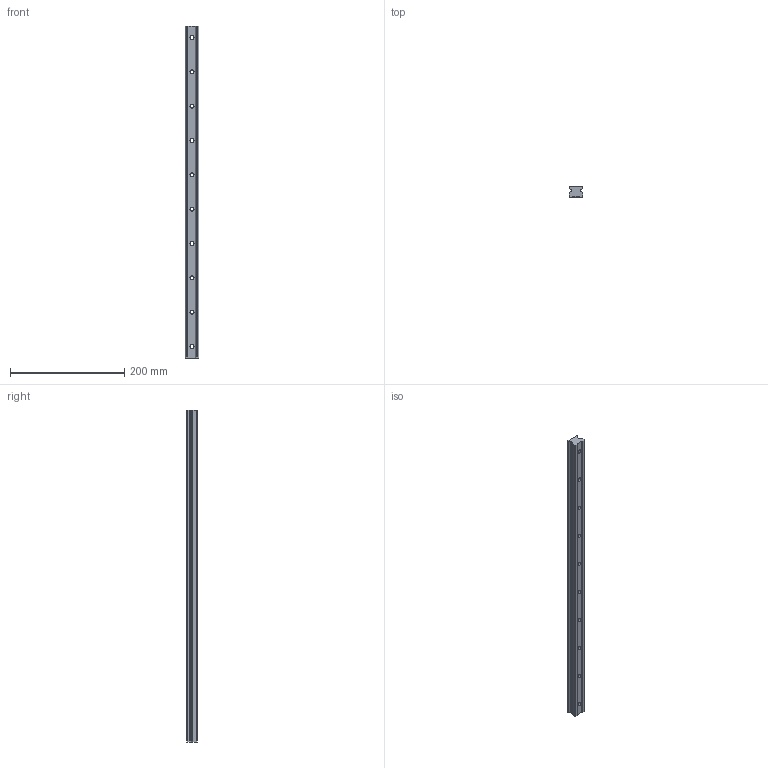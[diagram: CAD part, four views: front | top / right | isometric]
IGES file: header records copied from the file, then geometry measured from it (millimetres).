
Start section: SolidWorks IGES file using analytic representation for surfaces
Global section: file name: C:\Users\IanO\Desktop\L1016_v2\L1016.BL25_v2\L1016.BL25_v2_20160611_IGES\L1016.BL25-0580.igs; native system: SolidWorks 2017; preprocessor: SolidWorks 2017; author: IanO; date: 190612.130515; units: millimetre
Bounding box: 23 x 19.2 x 580 mm (x, y, z)
Surface area: 55617.9 mm2 (no closed solid volume)
Topology: 0 solids, 0 shells, 76 faces, 1608 edges, 1608 vertices
Faces by surface type: revolution 44, bspline 32
